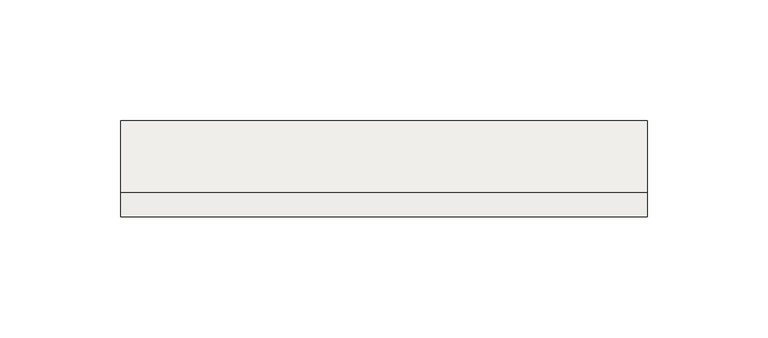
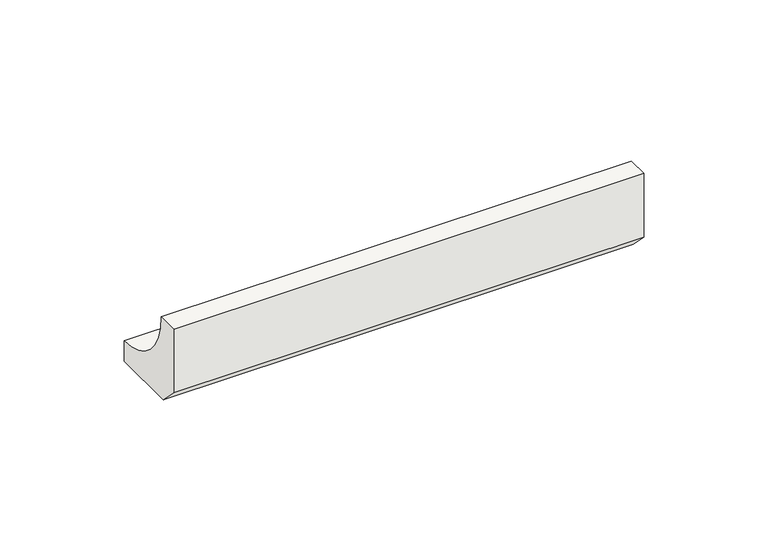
"""IFC4 building model written with IfcOpenShell, lengths in millimetres: slab geometry, ROSA GRES_112 : Pieza 112_Aqua_Plomo_Liso."""

from ifc_helpers import new_model, si_unit, point, frame, frame_2d, origin, place, context, project, spatial, polyline, circle_curve, trimmed, segment, composite_curve, outline, extrude, source, transform, mapped, element, save


def slab_5eb582c5(model_context):
    return source(origin(), model_context, "Body", "SweptSolid", [
        extrude(outline(composite_curve([segment(polyline([(0.0, 8.7114978), (0.0, 40.0), (9.9734114, 40.0)]), True, "CONTINUOUS"), segment(trimmed(circle_curve(frame_2d((39.9955547, 39.9955547)), 30.0221435), [point((9.9734114, 40.0))], [point((40.0, 9.9734114))], True, "CARTESIAN"), True, "CONTINUOUS"), segment(polyline([(40.0, 9.9734114), (40.0, 0.0), (8.7114978, 0.0), (0.0, 8.7114978)]), True, "CONTINUOUS")], self_intersect=False)), frame((0.0, 0.0, 0.0), z_axis=(1.0, 0.0, 0.0), x_axis=(0.0, 1.0, 0.0)), (0.0, 0.0, 1.0), 218.5690475),
    ])


if __name__ == "__main__":
    model = new_model("IFC4")
    model_context = context("Model", 3, world=origin())
    ifc_project = project(units=[si_unit("LENGTHUNIT", "METRE", prefix="MILLI")], contexts=[model_context])
    site = spatial("IfcSite", under=ifc_project)
    building = spatial("IfcBuilding", under=site)
    placement = place(None, origin())
    slab_shape = slab_5eb582c5(model_context)
    element("IfcSlab", 1, ObjectType="ROSA GRES_112 : Pieza 112_Aqua_Plomo_Liso", at=placement, inside=building, context=model_context, shape_type="MappedRepresentation", body=[
        mapped(slab_shape, transform((0.0, 0.0, 0.0), x_axis=(1.0, 0.0, 0.0), y_axis=(0.0, 1.0, 0.0), z_axis=(0.0, 0.0, 1.0))),
    ])
    save(model, "model.ifc")
